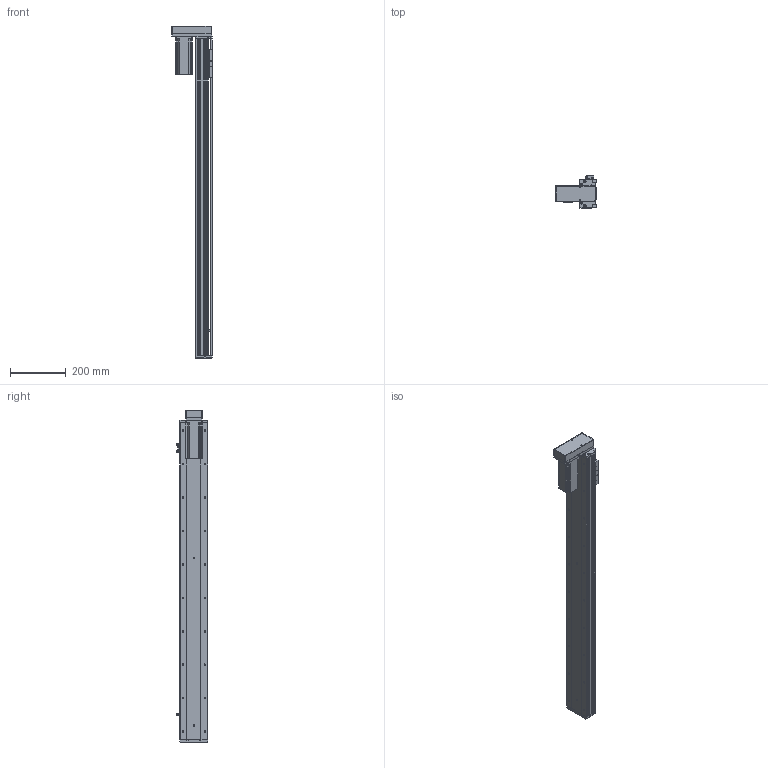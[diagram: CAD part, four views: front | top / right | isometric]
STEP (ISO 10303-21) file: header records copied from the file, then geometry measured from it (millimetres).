
FILE_DESCRIPTION (( 'STEP AP203' ), '1' );
FILE_NAME ('KSD100S-S950-MD-CM.STEP', '2019-08-30T03:45:35', ( '微软用户' ), ( '微软中国' ), 'SwSTEP 2.0', 'SolidWorks 2014', '' );
FILE_SCHEMA (( 'CONFIG_CONTROL_DESIGN' ));
Length unit declared in the file: millimetre
Products named in the file (11): 100遵鎮湛假蚾啣; 100宽防尘板丝杆950行程; U倰嫖萇EEㄜSX672; 覜茼え100遵圉猾敕; 台达ECMA－C20604AS伺服电机; 100宽马达安装板连板上下折丝杆同步带; 100宽底板半封闭丝杆950行程; 悵誘欶奻狟殏; 100遵傷啣; KSD100S-S950-MD-CM; 100宽滚珠螺姆安装板半封闭
Assembly tree (12 placements, depth 2):
  KSD100S-S950-MD-CM
    100宽底板半封闭丝杆950行程
    100遵傷啣
    100宽滚珠螺姆安装板半封闭
    100遵鎮湛假蚾啣
    100宽防尘板丝杆950行程
    U倰嫖萇EEㄜSX672  x3
    覜茼え100遵圉猾敕
    台达ECMA－C20604AS伺服电机
    100宽马达安装板连板上下折丝杆同步带
    悵誘欶奻狟殏
Bounding box: 147 x 113.7 x 1190.5 mm (x, y, z)
Volume: 2758042.5 mm3; surface area: 901608.5 mm2
Topology: 13 solids, 13 shells, 1343 faces, 3794 edges, 2391 vertices
Faces by surface type: cylinder 672, plane 516, cone 155
Entity records: 40720 total; most frequent: CARTESIAN_POINT 9555, DIRECTION 6421, ORIENTED_EDGE 6184, EDGE_CURVE 3092, AXIS2_PLACEMENT_3D 2349, VERTEX_POINT 2015, LINE 1723, VECTOR 1723
